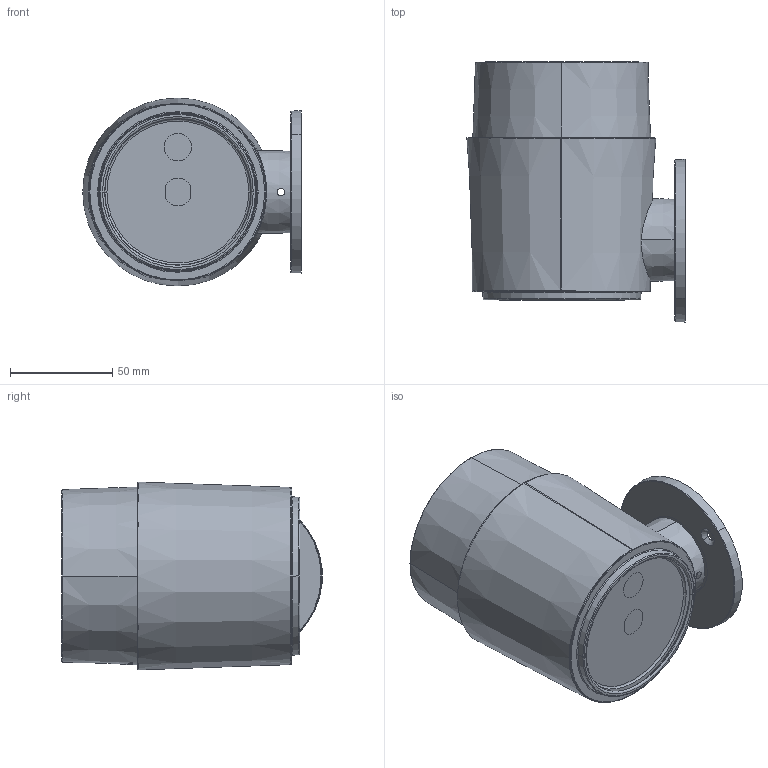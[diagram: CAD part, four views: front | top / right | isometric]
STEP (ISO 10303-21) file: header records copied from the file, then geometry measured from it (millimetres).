
FILE_DESCRIPTION((''),'2;1');
FILE_NAME('ECHO-PLAFONE_SW0001','2025-07-30T11:46:26',('Piccioli'),(''),'CREO PARAMETRIC BY PTC INC, 2025010','CREO PARAMETRIC BY PTC INC, 2025010','');
FILE_SCHEMA(('CONFIG_CONTROL_DESIGN'));
Length unit declared in the file: millimetre
Products named in the file (1): ECHO-PLAFONE_SW0001
Bounding box: 106.97 x 127.34 x 92 mm (x, y, z)
Surface area: 75706.5 mm2 (no closed solid volume)
Topology: 0 solids, 25 shells, 92 faces, 534 edges, 466 vertices
Faces by surface type: cone 38, torus 33, plane 19, cylinder 2
Entity records: 7946 total; most frequent: CARTESIAN_POINT 4192, DIRECTION 710, ORIENTED_EDGE 630, EDGE_CURVE 534, VERTEX_POINT 466, AXIS2_PLACEMENT_3D 308, B_SPLINE_CURVE_WITH_KNOTS 224, CIRCLE 216
